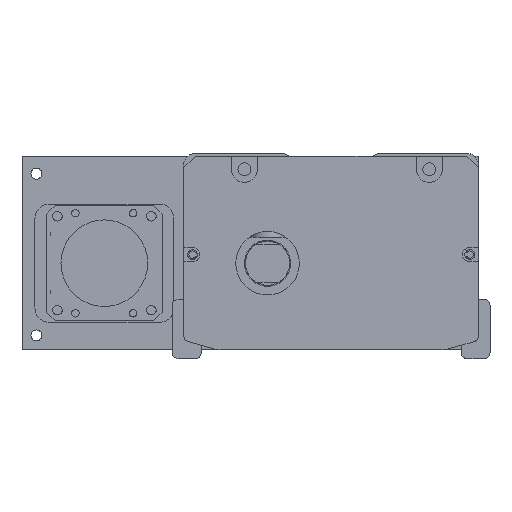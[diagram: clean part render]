
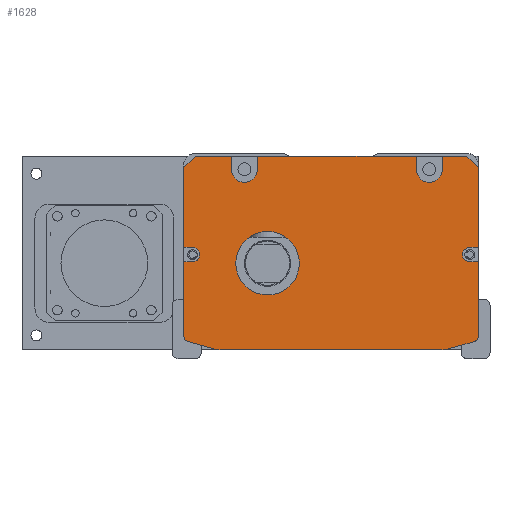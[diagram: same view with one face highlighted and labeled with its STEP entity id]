
A CAD part, front view. The second image highlights one B-rep face of the part: STEP entity #1628.
In plain terms, the highlighted planar face has unit normal (0, -1, 0).
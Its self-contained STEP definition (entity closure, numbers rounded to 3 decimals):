
#1628=ADVANCED_FACE('',(#4292,#4293),#2306,.F.);
#2306=PLANE('',#13565);
#2604=LINE('',#18821,#3405);
#2608=LINE('',#18829,#3409);
#2618=LINE('',#18850,#3419);
#2622=LINE('',#18858,#3423);
#2891=LINE('',#19851,#3692);
#2892=LINE('',#19853,#3693);
#2893=LINE('',#19855,#3694);
#2894=LINE('',#19859,#3695);
#2895=LINE('',#19861,#3696);
#2896=LINE('',#19863,#3697);
#2897=LINE('',#19867,#3698);
#2898=LINE('',#19869,#3699);
#2899=LINE('',#19871,#3700);
#2900=LINE('',#19872,#3701);
#2901=LINE('',#19876,#3702);
#2902=LINE('',#19879,#3703);
#2903=LINE('',#19883,#3704);
#2904=LINE('',#19887,#3705);
#2905=LINE('',#19890,#3706);
#2906=LINE('',#19894,#3707);
#3405=VECTOR('',#14809,1.);
#3409=VECTOR('',#14813,1.);
#3419=VECTOR('',#14825,1.);
#3423=VECTOR('',#14829,1.);
#3692=VECTOR('',#15894,1.);
#3693=VECTOR('',#15895,1.);
#3694=VECTOR('',#15896,1.);
#3695=VECTOR('',#15899,1.);
#3696=VECTOR('',#15900,1.);
#3697=VECTOR('',#15901,1.);
#3698=VECTOR('',#15904,1.);
#3699=VECTOR('',#15905,1.);
#3700=VECTOR('',#15906,1.);
#3701=VECTOR('',#15907,1.);
#3702=VECTOR('',#15910,1.);
#3703=VECTOR('',#15913,1.);
#3704=VECTOR('',#15916,1.);
#3705=VECTOR('',#15919,1.);
#3706=VECTOR('',#15922,1.);
#3707=VECTOR('',#15925,1.);
#4292=FACE_BOUND('',#4996,.T.);
#4293=FACE_BOUND('',#4997,.T.);
#4996=EDGE_LOOP('',(#6874,#6875,#6876,#6877,#6878,#6879,#6880,#6881,#6882,
#6883,#6884,#6885,#6886,#6887,#6888,#6889,#6890,#6891,#6892,#6893,#6894,
#6895,#6896,#6897,#6898,#6899,#6900,#6901));
#4997=EDGE_LOOP('',(#6902));
#6874=ORIENTED_EDGE('',*,*,#10758,.T.);
#6875=ORIENTED_EDGE('',*,*,#11242,.T.);
#6876=ORIENTED_EDGE('',*,*,#11243,.T.);
#6877=ORIENTED_EDGE('',*,*,#11244,.F.);
#6878=ORIENTED_EDGE('',*,*,#11245,.T.);
#6879=ORIENTED_EDGE('',*,*,#11246,.F.);
#6880=ORIENTED_EDGE('',*,*,#11247,.T.);
#6881=ORIENTED_EDGE('',*,*,#11248,.F.);
#6882=ORIENTED_EDGE('',*,*,#11249,.T.);
#6883=ORIENTED_EDGE('',*,*,#11250,.F.);
#6884=ORIENTED_EDGE('',*,*,#11251,.T.);
#6885=ORIENTED_EDGE('',*,*,#11252,.T.);
#6886=ORIENTED_EDGE('',*,*,#10776,.T.);
#6887=ORIENTED_EDGE('',*,*,#11253,.T.);
#6888=ORIENTED_EDGE('',*,*,#11254,.T.);
#6889=ORIENTED_EDGE('',*,*,#11255,.T.);
#6890=ORIENTED_EDGE('',*,*,#10772,.T.);
#6891=ORIENTED_EDGE('',*,*,#11256,.T.);
#6892=ORIENTED_EDGE('',*,*,#11257,.T.);
#6893=ORIENTED_EDGE('',*,*,#11258,.T.);
#6894=ORIENTED_EDGE('',*,*,#11259,.T.);
#6895=ORIENTED_EDGE('',*,*,#11260,.T.);
#6896=ORIENTED_EDGE('',*,*,#11261,.T.);
#6897=ORIENTED_EDGE('',*,*,#11262,.T.);
#6898=ORIENTED_EDGE('',*,*,#10762,.T.);
#6899=ORIENTED_EDGE('',*,*,#11263,.T.);
#6900=ORIENTED_EDGE('',*,*,#11264,.T.);
#6901=ORIENTED_EDGE('',*,*,#11265,.T.);
#6902=ORIENTED_EDGE('',*,*,#11266,.T.);
#9483=VERTEX_POINT('',#18820);
#9484=VERTEX_POINT('',#18822);
#9487=VERTEX_POINT('',#18828);
#9488=VERTEX_POINT('',#18830);
#9497=VERTEX_POINT('',#18849);
#9498=VERTEX_POINT('',#18851);
#9501=VERTEX_POINT('',#18857);
#9502=VERTEX_POINT('',#18859);
#9828=VERTEX_POINT('',#19852);
#9829=VERTEX_POINT('',#19854);
#9830=VERTEX_POINT('',#19856);
#9831=VERTEX_POINT('',#19858);
#9832=VERTEX_POINT('',#19860);
#9833=VERTEX_POINT('',#19862);
#9834=VERTEX_POINT('',#19864);
#9835=VERTEX_POINT('',#19866);
#9836=VERTEX_POINT('',#19868);
#9837=VERTEX_POINT('',#19870);
#9838=VERTEX_POINT('',#19873);
#9839=VERTEX_POINT('',#19875);
#9840=VERTEX_POINT('',#19878);
#9841=VERTEX_POINT('',#19880);
#9842=VERTEX_POINT('',#19882);
#9843=VERTEX_POINT('',#19884);
#9844=VERTEX_POINT('',#19886);
#9845=VERTEX_POINT('',#19888);
#9846=VERTEX_POINT('',#19891);
#9847=VERTEX_POINT('',#19893);
#9848=VERTEX_POINT('',#19896);
#10758=EDGE_CURVE('',#9484,#9483,#2604,.T.);
#10762=EDGE_CURVE('',#9488,#9487,#2608,.T.);
#10772=EDGE_CURVE('',#9498,#9497,#2618,.T.);
#10776=EDGE_CURVE('',#9502,#9501,#2622,.T.);
#11242=EDGE_CURVE('',#9483,#9828,#2891,.T.);
#11243=EDGE_CURVE('',#9828,#9829,#2892,.T.);
#11244=EDGE_CURVE('',#9830,#9829,#2893,.T.);
#11245=EDGE_CURVE('',#9830,#9831,#12636,.T.);
#11246=EDGE_CURVE('',#9832,#9831,#2894,.T.);
#11247=EDGE_CURVE('',#9832,#9833,#2895,.T.);
#11248=EDGE_CURVE('',#9834,#9833,#2896,.T.);
#11249=EDGE_CURVE('',#9834,#9835,#12637,.T.);
#11250=EDGE_CURVE('',#9836,#9835,#2897,.T.);
#11251=EDGE_CURVE('',#9836,#9837,#2898,.T.);
#11252=EDGE_CURVE('',#9837,#9502,#2899,.T.);
#11253=EDGE_CURVE('',#9501,#9838,#2900,.T.);
#11254=EDGE_CURVE('',#9838,#9839,#12638,.T.);
#11255=EDGE_CURVE('',#9839,#9498,#2901,.T.);
#11256=EDGE_CURVE('',#9497,#9840,#12639,.T.);
#11257=EDGE_CURVE('',#9840,#9841,#2902,.T.);
#11258=EDGE_CURVE('',#9841,#9842,#12640,.T.);
#11259=EDGE_CURVE('',#9842,#9843,#2903,.T.);
#11260=EDGE_CURVE('',#9843,#9844,#12641,.T.);
#11261=EDGE_CURVE('',#9844,#9845,#2904,.T.);
#11262=EDGE_CURVE('',#9845,#9488,#12642,.T.);
#11263=EDGE_CURVE('',#9487,#9846,#2905,.T.);
#11264=EDGE_CURVE('',#9846,#9847,#12643,.T.);
#11265=EDGE_CURVE('',#9847,#9484,#2906,.T.);
#11266=EDGE_CURVE('',#9848,#9848,#12644,.T.);
#12636=CIRCLE('',#13556,4.5);
#12637=CIRCLE('',#13557,4.5);
#12638=CIRCLE('',#13558,2.5);
#12639=CIRCLE('',#13559,2.);
#12640=CIRCLE('',#13560,10.);
#12641=CIRCLE('',#13561,10.);
#12642=CIRCLE('',#13562,2.);
#12643=CIRCLE('',#13563,2.5);
#12644=CIRCLE('',#13564,11.);
#13556=AXIS2_PLACEMENT_3D('',#19857,#15897,#15898);
#13557=AXIS2_PLACEMENT_3D('',#19865,#15902,#15903);
#13558=AXIS2_PLACEMENT_3D('',#19874,#15908,#15909);
#13559=AXIS2_PLACEMENT_3D('',#19877,#15911,#15912);
#13560=AXIS2_PLACEMENT_3D('',#19881,#15914,#15915);
#13561=AXIS2_PLACEMENT_3D('',#19885,#15917,#15918);
#13562=AXIS2_PLACEMENT_3D('',#19889,#15920,#15921);
#13563=AXIS2_PLACEMENT_3D('',#19892,#15923,#15924);
#13564=AXIS2_PLACEMENT_3D('',#19895,#15926,#15927);
#13565=AXIS2_PLACEMENT_3D('',#19897,#15928,#15929);
#14809=DIRECTION('',(0.,0.,1.));
#14813=DIRECTION('',(0.,0.,1.));
#14825=DIRECTION('',(0.,0.,-1.));
#14829=DIRECTION('',(0.,0.,-1.));
#15894=DIRECTION('',(-0.707,0.,0.707));
#15895=DIRECTION('',(-1.,0.,0.));
#15896=DIRECTION('',(0.,0.,1.));
#15897=DIRECTION('',(0.,1.,0.));
#15898=DIRECTION('',(0.,0.,1.));
#15899=DIRECTION('',(0.,0.,-1.));
#15900=DIRECTION('',(-1.,0.,0.));
#15901=DIRECTION('',(0.,0.,1.));
#15902=DIRECTION('',(0.,1.,0.));
#15903=DIRECTION('',(0.,0.,1.));
#15904=DIRECTION('',(0.,0.,-1.));
#15905=DIRECTION('',(-1.,0.,0.));
#15906=DIRECTION('',(-0.707,0.,-0.707));
#15907=DIRECTION('',(1.,0.,0.));
#15908=DIRECTION('',(0.,1.,0.));
#15909=DIRECTION('',(0.,0.,1.));
#15910=DIRECTION('',(-1.,0.,0.));
#15911=DIRECTION('',(0.,-1.,0.));
#15912=DIRECTION('',(0.,0.,1.));
#15913=DIRECTION('',(0.963,0.,-0.269));
#15914=DIRECTION('',(0.,-1.,0.));
#15915=DIRECTION('',(0.,0.,1.));
#15916=DIRECTION('',(1.,0.,0.));
#15917=DIRECTION('',(0.,-1.,0.));
#15918=DIRECTION('',(0.,0.,-1.));
#15919=DIRECTION('',(0.963,0.,0.269));
#15920=DIRECTION('',(0.,-1.,0.));
#15921=DIRECTION('',(0.,0.,-1.));
#15922=DIRECTION('',(-1.,0.,0.));
#15923=DIRECTION('',(0.,1.,0.));
#15924=DIRECTION('',(0.,0.,1.));
#15925=DIRECTION('',(1.,0.,0.));
#15926=DIRECTION('',(0.,1.,0.));
#15927=DIRECTION('',(0.,0.,1.));
#15928=DIRECTION('',(0.,1.,0.));
#15929=DIRECTION('',(1.,0.,0.));
#18820=CARTESIAN_POINT('',(47.808,-217.5,-5.));
#18821=CARTESIAN_POINT('',(47.808,-217.5,-1.));
#18822=CARTESIAN_POINT('',(47.808,-217.5,-32.5));
#18828=CARTESIAN_POINT('',(47.808,-217.5,-37.5));
#18829=CARTESIAN_POINT('',(47.808,-217.5,-1.));
#18830=CARTESIAN_POINT('',(47.808,-217.5,-63.212));
#18849=CARTESIAN_POINT('',(-54.192,-217.5,-63.212));
#18850=CARTESIAN_POINT('',(-54.192,-217.5,-62.));
#18851=CARTESIAN_POINT('',(-54.192,-217.5,-37.5));
#18857=CARTESIAN_POINT('',(-54.192,-217.5,-32.5));
#18858=CARTESIAN_POINT('',(-54.192,-217.5,-62.));
#18859=CARTESIAN_POINT('',(-54.192,-217.5,-5.));
#19851=CARTESIAN_POINT('',(43.808,-217.5,-1.));
#19852=CARTESIAN_POINT('',(43.808,-217.5,-1.));
#19853=CARTESIAN_POINT('',(-3.192,-217.5,-1.));
#19854=CARTESIAN_POINT('',(35.308,-217.5,-1.));
#19855=CARTESIAN_POINT('',(35.308,-217.5,-1.));
#19856=CARTESIAN_POINT('',(35.308,-217.5,-5.5));
#19857=CARTESIAN_POINT('',(30.808,-217.5,-5.5));
#19858=CARTESIAN_POINT('',(26.308,-217.5,-5.5));
#19859=CARTESIAN_POINT('',(26.308,-217.5,-1.));
#19860=CARTESIAN_POINT('',(26.308,-217.5,-1.));
#19861=CARTESIAN_POINT('',(-54.192,-217.5,-1.));
#19862=CARTESIAN_POINT('',(-28.692,-217.5,-1.));
#19863=CARTESIAN_POINT('',(-28.692,-217.5,-3.5));
#19864=CARTESIAN_POINT('',(-28.692,-217.5,-5.5));
#19865=CARTESIAN_POINT('',(-33.192,-217.5,-5.5));
#19866=CARTESIAN_POINT('',(-37.692,-217.5,-5.5));
#19867=CARTESIAN_POINT('',(-37.692,-217.5,-1.));
#19868=CARTESIAN_POINT('',(-37.692,-217.5,-1.));
#19869=CARTESIAN_POINT('',(-54.192,-217.5,-1.));
#19870=CARTESIAN_POINT('',(-50.192,-217.5,-1.));
#19871=CARTESIAN_POINT('',(-54.192,-217.5,-5.));
#19872=CARTESIAN_POINT('',(-3.192,-217.5,-32.5));
#19873=CARTESIAN_POINT('',(-51.192,-217.5,-32.5));
#19874=CARTESIAN_POINT('',(-51.192,-217.5,-35.));
#19875=CARTESIAN_POINT('',(-51.192,-217.5,-37.5));
#19876=CARTESIAN_POINT('',(-3.192,-217.5,-37.5));
#19877=CARTESIAN_POINT('',(-52.192,-217.5,-63.212));
#19878=CARTESIAN_POINT('',(-52.731,-217.5,-65.138));
#19879=CARTESIAN_POINT('',(-55.807,-217.5,-64.279));
#19880=CARTESIAN_POINT('',(-43.809,-217.5,-67.631));
#19881=CARTESIAN_POINT('',(-41.118,-217.5,-58.));
#19882=CARTESIAN_POINT('',(-41.118,-217.5,-68.));
#19883=CARTESIAN_POINT('',(-54.692,-217.5,-68.));
#19884=CARTESIAN_POINT('',(34.733,-217.5,-68.));
#19885=CARTESIAN_POINT('',(34.733,-217.5,-58.));
#19886=CARTESIAN_POINT('',(37.424,-217.5,-67.631));
#19887=CARTESIAN_POINT('',(49.422,-217.5,-64.279));
#19888=CARTESIAN_POINT('',(46.346,-217.5,-65.138));
#19889=CARTESIAN_POINT('',(45.808,-217.5,-63.212));
#19890=CARTESIAN_POINT('',(-3.192,-217.5,-37.5));
#19891=CARTESIAN_POINT('',(44.808,-217.5,-37.5));
#19892=CARTESIAN_POINT('',(44.808,-217.5,-35.));
#19893=CARTESIAN_POINT('',(44.808,-217.5,-32.5));
#19894=CARTESIAN_POINT('',(-3.192,-217.5,-32.5));
#19895=CARTESIAN_POINT('',(-25.192,-217.5,-38.));
#19896=CARTESIAN_POINT('',(-25.192,-217.5,-27.));
#19897=CARTESIAN_POINT('',(-3.192,-217.5,-1.));
